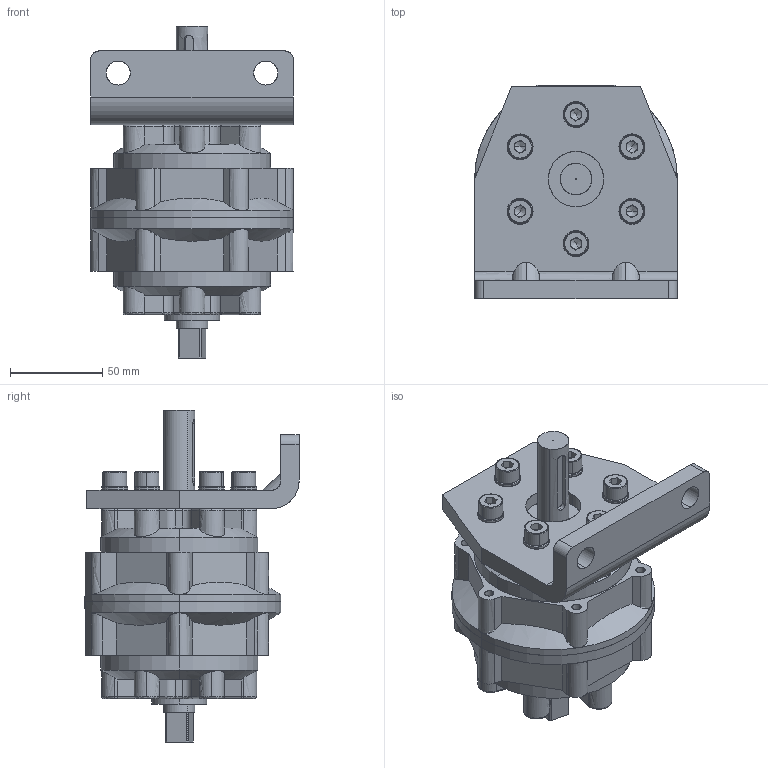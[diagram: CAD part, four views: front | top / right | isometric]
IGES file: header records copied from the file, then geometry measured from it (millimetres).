
Start section: SolidWorks IGES file using analytic representation for surfaces
Global section: file name: C:\Users\Chieh_Lu\Dropbox\¤u§@«Ç\PRN50-150-300-800\PRN150\PRN150\PRN150#-#-#-L1.IGS; native system: SolidWorks 2014; preprocessor: SolidWorks 2014; author: Chieh_Lu; date: 160115.004232; units: millimetre
Bounding box: 110 x 116.11 x 180 mm (x, y, z)
Surface area: 140289.6 mm2 (no closed solid volume)
Topology: 0 solids, 0 shells, 745 faces, 9739 edges, 9699 vertices
Faces by surface type: bspline 393, revolution 352
